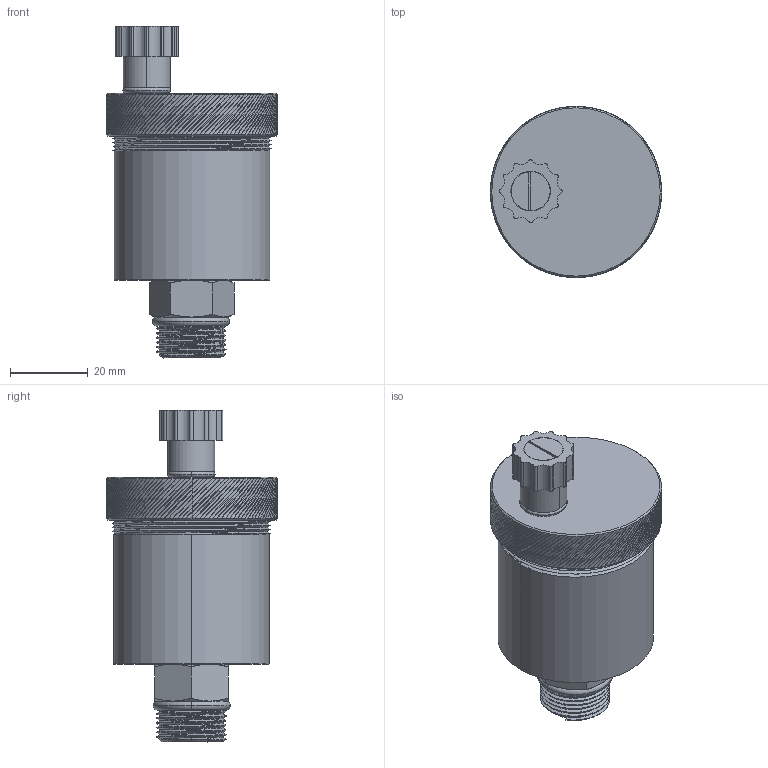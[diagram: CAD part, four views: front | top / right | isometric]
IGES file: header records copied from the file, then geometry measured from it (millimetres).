
Start section: Diese Datei wurde von MicroStation IGES (Import) erzeugt.
Global section: file name: Purgomat.igs; native system: MicroStation; preprocessor: MicroStation; date: 20251101.094903; units: millimetre
Bounding box: 44 x 44 x 85.34 mm (x, y, z)
Volume: 22750.5 mm3; surface area: 28689.5 mm2
Topology: 12 solids, 12 shells, 432 faces, 1180 edges, 896 vertices
Faces by surface type: cone 306, cylinder 57, plane 32, revolution 14, torus 8, extrusion 8, bspline 7
